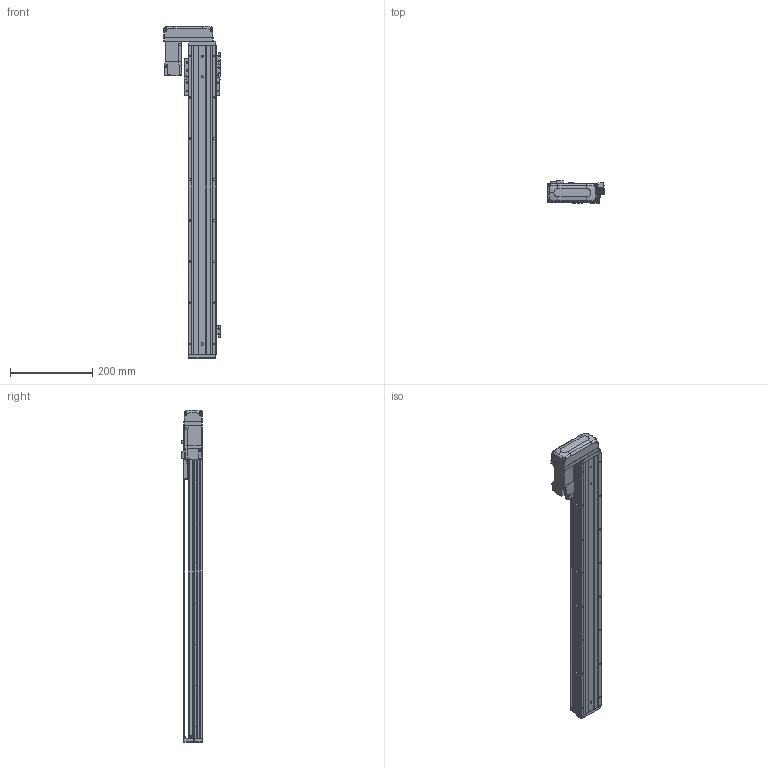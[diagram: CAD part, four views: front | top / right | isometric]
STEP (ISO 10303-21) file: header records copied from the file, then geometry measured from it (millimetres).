
FILE_DESCRIPTION (( 'STEP AP203' ), '1' );
FILE_NAME ('KTHAL60-600-BR-M10-C4L.step', '2022-03-19T08:45:09', ( '微软用户' ), ( '微软中国' ), 'SwSTEP 2.0', 'SolidWorks 2020', '' );
FILE_SCHEMA (( 'CONFIG_CONTROL_DESIGN' ));
Length unit declared in the file: millimetre
Products named in the file (18): EE_SX911P_R; HG-KR13（三菱）; KTHA60-001_750; CTHA60-017; CTHA60-015-2_CTHA60-015-2; KTHLA60-002; CTHA60-021; CTHA60-033; KTHA60-004; GBT 70.1-M4×16; GBT 70.1-M3×15; KTHA60-005; GBT77-2000M3-3; KTHAL60-600-BR-M10-C4L; GB¨uT 70.2-M3¡Á5_M3¡Á6; GBT 70.1-M3℅6; GBT 70.3-M3℅6; CTHA60-016
Assembly tree (51 placements, depth 2):
  KTHAL60-600-BR-M10-C4L
    KTHA60-001_750
    KTHLA60-002
    KTHA60-004
    KTHA60-005
    GB¨uT 70.2-M3¡Á5_M3¡Á6  x5
    GBT 70.3-M3℅6  x4
    EE_SX911P_R  x3
    CTHA60-017  x3
    CTHA60-021  x2
    GBT 70.1-M4×16  x10
    GBT77-2000M3-3  x6
    GBT 70.1-M3℅6  x6
    CTHA60-016
    HG-KR13（三菱）
    CTHA60-015-2_CTHA60-015-2
    CTHA60-033
    GBT 70.1-M3×15  x4
Bounding box: 137.82 x 52.3 x 807 mm (x, y, z)
Volume: 1698529 mm3; surface area: 419584.2 mm2
Topology: 54 solids, 54 shells, 2315 faces, 5499 edges, 3377 vertices
Faces by surface type: plane 1324, cylinder 565, cone 288, torus 98, bspline 26, sphere 14
Entity records: 40639 total; most frequent: CARTESIAN_POINT 7672, DIRECTION 6353, ORIENTED_EDGE 6142, EDGE_CURVE 3071, AXIS2_PLACEMENT_3D 2125, LINE 2103, VECTOR 2103, VERTEX_POINT 1926
